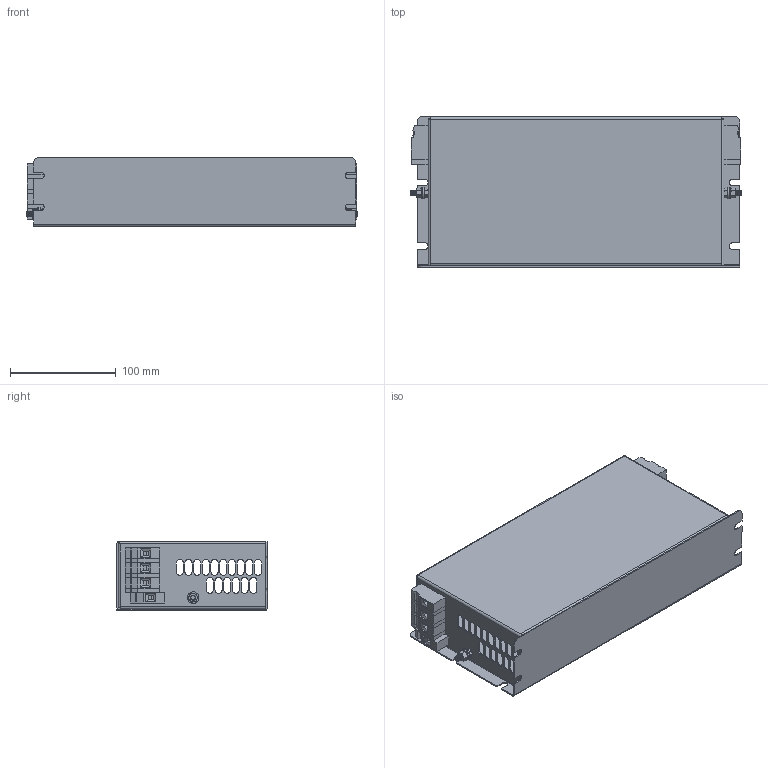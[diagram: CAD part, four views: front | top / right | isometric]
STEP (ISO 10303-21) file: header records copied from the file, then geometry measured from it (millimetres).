
FILE_DESCRIPTION (( 'STEP AP203' ), '1' );
FILE_NAME ('NF-KC-DAR2-16-4.STEP', '2025-09-25T14:29:40', ( '' ), ( '' ), 'SwSTEP 2.0', 'SolidWorks 2017', '' );
FILE_SCHEMA (( 'CONFIG_CONTROL_DESIGN' ));
Length unit declared in the file: millimetre
Products named in the file (10): hex nut style 1_am_B18.2.4.1M - Hex nut, Style 1,  M5 x 0.8 --D-N; M5x13 Earth post; hex screw_am (dont use)_B18.6.7M - M5 x 0.8 x 13 Indented HHMS --13S; NF-KC-DAR2-16-4; flat washer narrow_am_B18.22M - Plain washer, 5 mm, narrow; VDFK6x3 with spacer; VDFK-6; NF-KC-DAR2-16-4 lid; NF-KC-DAR2-16-4 case; VDFK-6 spacer
Assembly tree (19 placements, depth 3):
  NF-KC-DAR2-16-4
    NF-KC-DAR2-16-4 case
    NF-KC-DAR2-16-4 lid
    M5x13 Earth post  x2
      hex screw_am (dont use)_B18.6.7M - M5 x 0.8 x 13 Indented HHMS --13S
      flat washer narrow_am_B18.22M - Plain washer, 5 mm, narrow
      hex nut style 1_am_B18.2.4.1M - Hex nut, Style 1,  M5 x 0.8 --D-N
    VDFK6x3 with spacer  x2
      VDFK-6 spacer
      VDFK-6
    VDFK-6 spacer  x2
    VDFK-6  x2
Bounding box: 312.6 x 142 x 65 mm (x, y, z)
Volume: 222223.4 mm3; surface area: 320110.9 mm2
Topology: 24 solids, 24 shells, 1146 faces, 2904 edges, 1842 vertices
Faces by surface type: plane 650, cylinder 320, cone 176
Entity records: 18529 total; most frequent: DIRECTION 3093, CARTESIAN_POINT 3078, ORIENTED_EDGE 2878, EDGE_CURVE 1439, AXIS2_PLACEMENT_3D 1119, VERTEX_POINT 912, VECTOR 855, LINE 855
